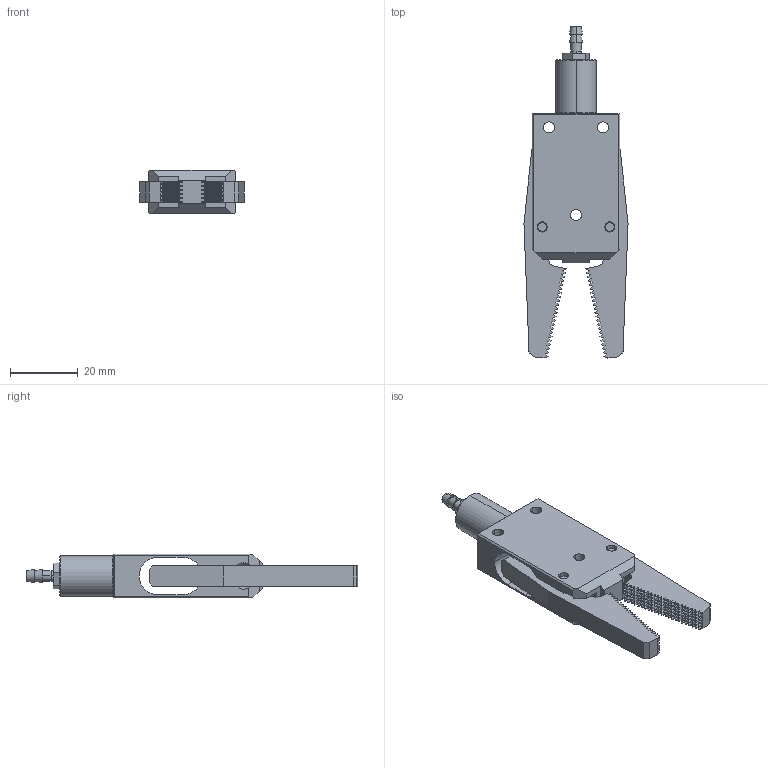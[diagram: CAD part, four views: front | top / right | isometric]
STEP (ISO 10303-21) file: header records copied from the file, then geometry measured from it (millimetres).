
FILE_DESCRIPTION (( 'STEP AP214' ), '1' );
FILE_NAME ('GRM12A.STEP', '2023-03-08T01:42:57', ( '微软用户' ), ( '微软中国' ), 'SwSTEP 2.0', 'SolidWorks 2018', '' );
FILE_SCHEMA (( 'AUTOMOTIVE_DESIGN' ));
Length unit declared in the file: millimetre
Products named in the file (2): GRM12A
Bounding box: 30.83 x 98.28 x 13 mm (x, y, z)
Volume: 15044.9 mm3; surface area: 10569.5 mm2
Topology: 6 solids, 6 shells, 1426 faces, 3116 edges, 1706 vertices
Faces by surface type: plane 1359, cylinder 43, cone 22, bspline 2
Entity records: 37184 total; most frequent: CARTESIAN_POINT 6576, ORIENTED_EDGE 6232, DIRECTION 6060, EDGE_CURVE 3116, VECTOR 2972, LINE 2972, VERTEX_POINT 1706, AXIS2_PLACEMENT_3D 1544
